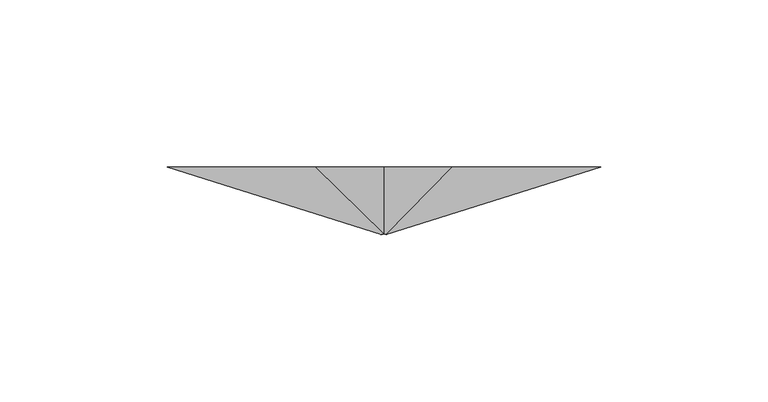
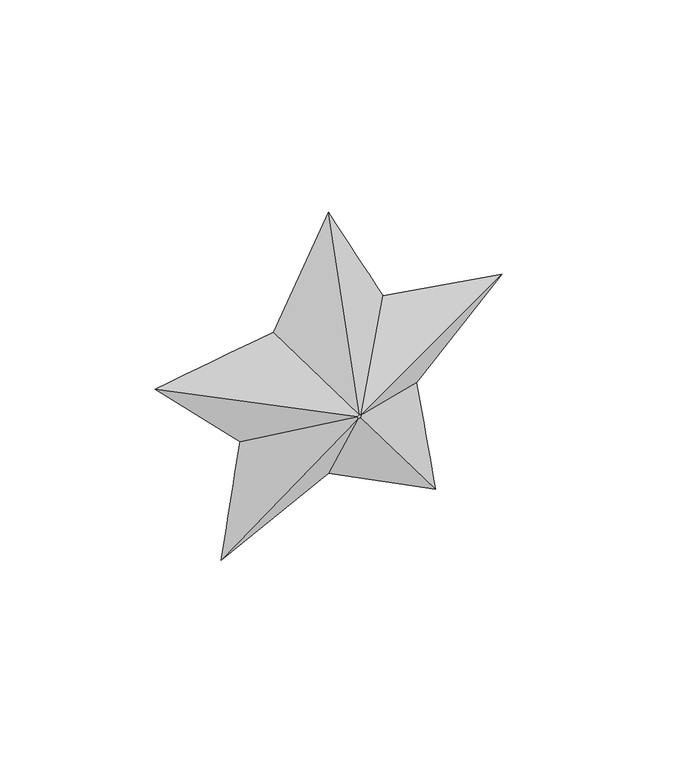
"""IFC4 building model written with IfcOpenShell, lengths in millimetres: furniture geometry, Blocks_Star Garland_F00495EN : Amarelo."""

import ifcopenshell
import ifcopenshell.guid

model = None  # the IFC model being written
_history = None  # IfcOwnerHistory: only IFC2X3 demands one
_inside = {}  # id of a spatial element -> (the spatial element, [elements in it])
_under = {}  # id of a project, library or spatial element -> (it, [spatial elements below it])
_declared = {}  # id of a project -> (the project, [libraries it declares])
_typed = {}  # id of a type object -> (the type object, [elements of that type])
_made_of = {}  # id of a material, layer set ... -> (it, [elements and type objects made of it])


def new_model(schema):
    """Start an empty IFC model of exactly this schema.

    Asked for "IFC4X3", IfcOpenShell would pick the latest addendum, in which some entities
    have other attributes; the version numbers below select the first issue.
    IFC2X3 requires an IfcOwnerHistory on every rooted entity: one is made here for all.
    """
    global model, _history
    if schema == "IFC4X3":
        model = ifcopenshell.file(schema_version=(4, 3, 0, 0))
    else:
        model = ifcopenshell.file(schema=schema)
    _inside.clear()
    _under.clear()
    _declared.clear()
    _typed.clear()
    _made_of.clear()
    _history = None
    if model.schema == "IFC2X3":
        org = make("IfcOrganization", Name="unknown")
        user = make(
            "IfcPersonAndOrganization",
            ThePerson=make("IfcPerson", FamilyName="unknown"),
            TheOrganization=org,
        )
        app = make(
            "IfcApplication",
            ApplicationDeveloper=org,
            Version="unknown",
            ApplicationFullName="unknown",
            ApplicationIdentifier="unknown",
        )
        _history = make(
            "IfcOwnerHistory",
            OwningUser=user,
            OwningApplication=app,
            ChangeAction="ADDED",
            CreationDate=0,
        )
    return model


def make(cls, **values):
    """One entity of the class cls with the attributes given. An attribute that is None is left unset."""
    return model.create_entity(
        cls, **{name: value for name, value in values.items() if value is not None}
    )


def rooted(cls, **values):
    """An entity with a GlobalId (a new one), such as an element, a storey or a relation."""
    return make(cls, GlobalId=ifcopenshell.guid.new(), OwnerHistory=_history, **values)


def si_unit(unit_type, name, prefix=None):
    """IfcSIUnit, for example si_unit("LENGTHUNIT", "METRE", prefix="MILLI")."""
    return make("IfcSIUnit", UnitType=unit_type, Prefix=prefix, Name=name)


def assignment(units):
    """IfcUnitAssignment: the units of a project."""
    return None if units is None else make("IfcUnitAssignment", Units=units)


def point(xyz):
    """IfcCartesianPoint."""
    return None if xyz is None else make("IfcCartesianPoint", Coordinates=xyz)


def direction(xyz):
    """IfcDirection."""
    return None if xyz is None else make("IfcDirection", DirectionRatios=xyz)


def frame(location, z_axis=None, x_axis=None):
    """IfcAxis2Placement3D, a coordinate frame: its origin and axes. An axis left out is left unset."""
    return make(
        "IfcAxis2Placement3D",
        Location=point(location),
        Axis=direction(z_axis),
        RefDirection=direction(x_axis),
    )


def origin():
    """The frame at (0, 0, 0) with its axes left unset."""
    return frame((0.0, 0.0, 0.0))


def place(relative_to, where):
    """IfcLocalPlacement: puts the frame where relative to a parent placement (None: the world)."""
    return make(
        "IfcLocalPlacement", PlacementRelTo=relative_to, RelativePlacement=where
    )


def context(
    kind, dimensions, precision=None, world=None, true_north=None, identifier=None
):
    """IfcGeometricRepresentationContext, for example the 3D "Model" context."""
    return make(
        "IfcGeometricRepresentationContext",
        ContextIdentifier=identifier,
        ContextType=kind,
        CoordinateSpaceDimension=dimensions,
        Precision=precision,
        WorldCoordinateSystem=world,
        TrueNorth=true_north,
    )


def project(units=None, contexts=None):
    """IfcProject with its units and contexts."""
    return rooted(
        "IfcProject",
        Name="project",
        RepresentationContexts=contexts,
        UnitsInContext=assignment(units),
    )


def spatial(cls, under=None, at=None, **own):
    """A site, building, storey or space (cls), placed at a placement, below another one or the project."""
    s = rooted(cls, ObjectPlacement=at, **own)
    if under is not None:
        _under.setdefault(under.id(), (under, []))[1].append(s)
    return s


def shape(context_of_items, identifier, shape_type, items):
    """IfcShapeRepresentation: the items that make up one representation, for example the "Body"."""
    return make(
        "IfcShapeRepresentation",
        ContextOfItems=context_of_items,
        RepresentationIdentifier=identifier,
        RepresentationType=shape_type,
        Items=items,
    )


def source(mapping_origin, context_of_items, identifier, shape_type, items):
    """IfcRepresentationMap: a shape defined once, which mapped items show again and again."""
    return make(
        "IfcRepresentationMap",
        MappingOrigin=mapping_origin,
        MappedRepresentation=shape(context_of_items, identifier, shape_type, items),
    )


def transform(
    local_origin,
    x_axis=None,
    y_axis=None,
    z_axis=None,
    scale=None,
    scale2=None,
    scale3=None,
    uniform=True,
):
    """IfcCartesianTransformationOperator3D, or its non-uniform kind. x_axis, y_axis, z_axis: its Axis1, 2, 3."""
    if uniform:
        return make(
            "IfcCartesianTransformationOperator3D",
            Axis1=direction(x_axis),
            Axis2=direction(y_axis),
            LocalOrigin=point(local_origin),
            Scale=scale,
            Axis3=direction(z_axis),
        )
    return make(
        "IfcCartesianTransformationOperator3DnonUniform",
        Axis1=direction(x_axis),
        Axis2=direction(y_axis),
        LocalOrigin=point(local_origin),
        Scale=scale,
        Axis3=direction(z_axis),
        Scale2=scale2,
        Scale3=scale3,
    )


def mapped(mapping_source, mapping_target):
    """IfcMappedItem: shows the shape of a source again, moved by a transform."""
    return make(
        "IfcMappedItem", MappingSource=mapping_source, MappingTarget=mapping_target
    )


def made_of(thing, what):
    """Note that an element or type object is made of a material, layer set ...; save() writes the relation."""
    if what is not None:
        _made_of.setdefault(what.id(), (what, []))[1].append(thing)
    return thing


def element(
    cls,
    number,
    at=None,
    inside=None,
    cuts=None,
    type_object=None,
    material=None,
    context=None,
    identifier="Body",
    shape_type=None,
    held_by="IfcProductDefinitionShape",
    body=None,
    shapes=None,
    **own,
):
    """One element of the class cls, such as IfcWall. Its Tag is "e" and its number.

    at: its placement. inside: the storey or other place that contains it. cuts: it is an
    opening in that element (IfcRelVoidsElement). A single representation is given by context,
    identifier, shape_type and body (its items); several are given by shapes. held_by: the class
    of the entity that holds the representations. save() writes the other relations.
    """
    e = rooted(cls, Tag="e%d" % number, ObjectPlacement=at, **own)
    if body is not None:
        shapes = [shape(context, identifier, shape_type, body)]
    if shapes is not None:
        e.Representation = make(held_by, Representations=shapes)
    if inside is not None:
        _inside.setdefault(inside.id(), (inside, []))[1].append(e)
    if cuts is not None:
        rooted(
            "IfcRelVoidsElement", RelatingBuildingElement=cuts, RelatedOpeningElement=e
        )
    if type_object is not None:
        _typed.setdefault(type_object.id(), (type_object, []))[1].append(e)
    return made_of(e, material)


def aggregate(whole, parts):
    """IfcRelAggregates: a whole, such as a stair, and the parts it consists of."""
    return rooted("IfcRelAggregates", RelatingObject=whole, RelatedObjects=parts)


def save(model, path):
    """Write the relations noted so far, then the file.

    IfcRelAggregates (storeys below a building ...), IfcRelContainedInSpatialStructure (elements
    in a storey), IfcRelDefinesByType, IfcRelAssociatesMaterial and IfcRelDeclares: one each for
    every whole, place, type object, material and project.
    """
    for whole, parts in _under.values():
        aggregate(whole, parts)
    for where, things in _inside.values():
        rooted(
            "IfcRelContainedInSpatialStructure",
            RelatedElements=things,
            RelatingStructure=where,
        )
    for kind, things in _typed.values():
        rooted("IfcRelDefinesByType", RelatedObjects=things, RelatingType=kind)
    for what, things in _made_of.values():
        rooted("IfcRelAssociatesMaterial", RelatedObjects=things, RelatingMaterial=what)
    for by, libraries in _declared.values():
        rooted("IfcRelDeclares", RelatingContext=by, RelatedDefinitions=libraries)
    model.write(path)


def plane_surface(at):
    """IfcPlane: the flat surface through the origin of the frame at, square to its z axis."""
    return make("IfcPlane", Position=at)


def spline_surface(u_degree, v_degree, points, u_multiplicities, v_multiplicities, u_knots, v_knots, weights=None):
    """IfcBSplineSurfaceWithKnots; with weights, IfcRationalBSplineSurfaceWithKnots. points: one row for each step in u."""
    own = dict(
        UDegree=u_degree,
        VDegree=v_degree,
        ControlPointsList=[[point(p) for p in row] for row in points],
        SurfaceForm="UNSPECIFIED",
        UClosed=False,
        VClosed=False,
        SelfIntersect=False,
        UMultiplicities=u_multiplicities,
        VMultiplicities=v_multiplicities,
        UKnots=u_knots,
        VKnots=v_knots,
        KnotSpec="UNSPECIFIED",
    )
    if weights is None:
        return make("IfcBSplineSurfaceWithKnots", **own)
    return make("IfcRationalBSplineSurfaceWithKnots", WeightsData=weights, **own)


def advanced_brep(points, edges, surfaces, faces):
    """IfcAdvancedBrep: a solid bounded by faces that lie on surfaces and meet in shared edges.

    An edge is (start, end): straight between two places in points (the first is 0);
    or (start, end, curve); or (start, end, curve, False) where it runs against its curve.
    A face is (place in surfaces, loops), or (place, loops, False) where it looks against
    its surface's normal. A loop lists edges by number (the first is 1), with a minus sign
    where the edge is run from its end to its start. The first loop is the outer one.
    """
    corners = [point(p) for p in points]
    vertices = [make("IfcVertexPoint", VertexGeometry=c) for c in corners]
    made = []
    for start, end, *more in edges:
        made.append(
            make(
                "IfcEdgeCurve",
                EdgeStart=vertices[start],
                EdgeEnd=vertices[end],
                EdgeGeometry=more[0] if more else make("IfcPolyline", Points=[corners[start], corners[end]]),
                SameSense=more[1] if len(more) > 1 else True,
            )
        )
    hull = []
    for where, loops, *sense in faces:
        bounds = []
        for j, loop in enumerate(loops):
            ring = [make("IfcOrientedEdge", EdgeElement=made[abs(k) - 1], Orientation=k > 0) for k in loop]
            bounds.append(
                make(
                    "IfcFaceOuterBound" if j == 0 else "IfcFaceBound",
                    Bound=make("IfcEdgeLoop", EdgeList=ring),
                    Orientation=True,
                )
            )
        hull.append(make("IfcAdvancedFace", Bounds=bounds, FaceSurface=surfaces[where], SameSense=sense[0] if sense else True))
    return make("IfcAdvancedBrep", Outer=make("IfcClosedShell", CfsFaces=hull))


def furniture_70902589(model_context):
    return source(origin(), model_context, "Body", "AdvancedBrep", [
        advanced_brep(
        [(714.2857143, -20.0, 2236.0659778), (713.52177, -20.0, 2235.5109398), (713.7989963, -20.0, 2234.6352128), (714.7111772, -20.0, 2234.6352128), (715.0028806, -20.0, 2235.544926), (714.2857143, 0.0, 2303.5142923), (734.6430852, 0.0, 2263.5607023), (778.931981, 0.0, 2256.5460303), (747.2246324, 0.0, 2224.8386817), (754.2393043, 0.0, 2180.549786), (714.2857143, 0.0, 2200.9071569), (674.3321242, 0.0, 2180.549786), (681.3467962, 0.0, 2224.8386817), (649.6394476, 0.0, 2256.5460303), (693.9283434, 0.0, 2263.5607023)],
        [
            (0, 1),
            (1, 2),
            (2, 3),
            (3, 4),
            (4, 0),
            (5, 6),
            (6, 7),
            (7, 8),
            (8, 9),
            (9, 10),
            (10, 11),
            (11, 12),
            (12, 13),
            (13, 14),
            (14, 5),
            (12, 1),
            (1, 13),
            (11, 2),
            (10, 2),
            (9, 3),
            (8, 4),
            (7, 4),
            (6, 4),
            (5, 0),
            (14, 0),
        ],
        [
            plane_surface(frame((714.2641077, -20.0, 2235.2784538), z_axis=(0.0, -1.0, 0.0), x_axis=(-0.8090169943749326, 0.0, -0.5877852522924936))),
            plane_surface(frame((714.2857143, 0.0, 2235.541185), z_axis=(0.0, 1.0, 0.0), x_axis=(-0.8090169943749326, 0.0, -0.5877852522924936))),
            plane_surface(frame((665.4931219, 0.0, 2240.692356), z_axis=(-0.38955317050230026, -0.834563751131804, -0.3895531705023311), x_axis=(0.7071067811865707, 0.0, -0.7071067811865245))),
            spline_surface(1, 1, [[(681.3467962, 0.0, 2224.8386817), (713.52177, -20.0, 2235.5109398)], [(674.3321242, 0.0, 2180.549786), (713.7989963, -20.0, 2234.6352128)]], [2, 2], [2, 2], [0.0, 1.0], [0.0, 1.0]),
            plane_surface(frame((694.3089193, 0.0, 2190.7284714), z_axis=(0.2502505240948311, -0.8343572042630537, -0.49114430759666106), x_axis=(0.8910065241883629, 0.0, 0.45399049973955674))),
            spline_surface(1, 1, [[(714.2857143, 0.0, 2200.9071569), (713.7989963, -20.0, 2234.6352128)], [(754.2393043, 0.0, 2180.549786), (714.7111772, -20.0, 2234.6352128)]], [2, 2], [2, 2], [0.0, 1.0], [0.0, 1.0]),
            spline_surface(1, 1, [[(754.2393043, 0.0, 2180.549786), (714.7111772, -20.0, 2234.6352128)], [(747.2246324, 0.0, 2224.8386817), (715.0028806, -20.0, 2235.544926)]], [2, 2], [2, 2], [0.0, 1.0], [0.0, 1.0]),
            plane_surface(frame((763.0783067, 0.0, 2240.692356), z_axis=(0.38904227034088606, -0.8350402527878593, -0.38904227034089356), x_axis=(0.7071067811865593, 0.0, 0.7071067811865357))),
            plane_surface(frame((756.7875331, 0.0, 2260.0533663), z_axis=(0.08530557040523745, -0.8382332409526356, 0.538598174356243), x_axis=(-0.9876883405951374, 0.0, 0.1564344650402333))),
            spline_surface(1, 1, [[(734.6430852, 0.0, 2263.5607023), (715.0028806, -20.0, 2235.544926)], [(714.2857143, 0.0, 2303.5142923), (714.2857143, -20.0, 2236.0659778)]], [2, 2], [2, 2], [0.0, 1.0], [0.0, 1.0]),
            plane_surface(frame((704.1070288, 0.0, 2283.5374973), z_axis=(-0.48723827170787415, -0.8372369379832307, 0.24826029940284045), x_axis=(-0.45399049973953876, 0.0, -0.891006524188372))),
            spline_surface(1, 1, [[(693.9283434, 0.0, 2263.5607023), (714.2857143, -20.0, 2236.0659778)], [(649.6394476, 0.0, 2256.5460303), (713.52177, -20.0, 2235.5109398)]], [2, 2], [2, 2], [0.0, 1.0], [0.0, 1.0]),
        ],
        [
            (0, [[1, 2, 3, 4, 5]]),
            (1, [[6, 7, 8, 9, 10, 11, 12, 13, 14, 15]]),
            (2, [[-13, 16, 17]]),
            (3, [[-12, 18, -2, -16]]),
            (4, [[-11, 19, -18]]),
            (5, [[-10, 20, -3, -19]]),
            (6, [[-9, 21, -4, -20]]),
            (7, [[-8, 22, -21]]),
            (8, [[-7, 23, -22]]),
            (9, [[-6, 24, -5, -23]]),
            (10, [[-15, 25, -24]]),
            (11, [[-14, -17, -1, -25]]),
        ],
    ),
    ])


if __name__ == "__main__":
    model = new_model("IFC4")
    model_context = context("Model", 3, world=origin())
    ifc_project = project(units=[si_unit("LENGTHUNIT", "METRE", prefix="MILLI")], contexts=[model_context])
    site = spatial("IfcSite", under=ifc_project)
    building = spatial("IfcBuilding", under=site)
    placement = place(None, origin())
    furniture_shape = furniture_70902589(model_context)
    element("IfcFurniture", 1, ObjectType="Blocks_Star Garland_F00495EN : Amarelo", at=placement, inside=building, context=model_context, shape_type="MappedRepresentation", body=[
        mapped(furniture_shape, transform((0.0, 0.0, 0.0), x_axis=(1.0, 0.0, 0.0), y_axis=(0.0, 1.0, 0.0), z_axis=(0.0, 0.0, 1.0))),
    ])
    save(model, "model.ifc")
